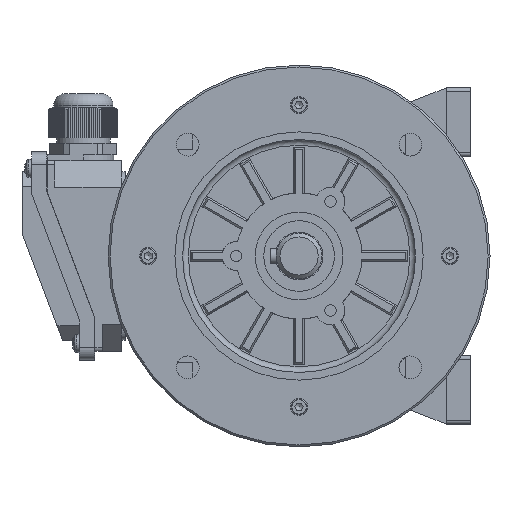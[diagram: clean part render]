
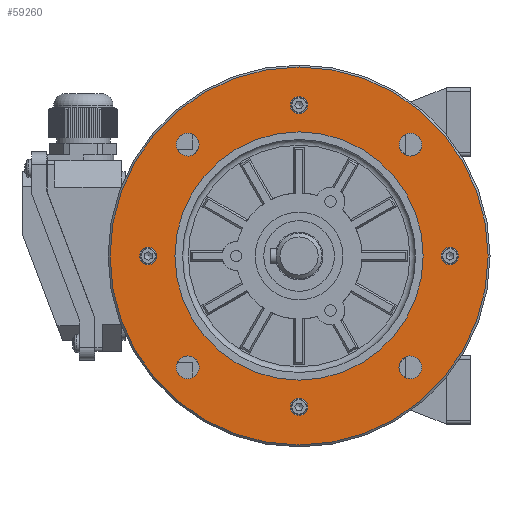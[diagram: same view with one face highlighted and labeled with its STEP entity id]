
A CAD part, left-side view. The second image highlights one B-rep face of the part: STEP entity #59260.
In plain terms, the highlighted planar face has unit normal (-1, 0, 0).
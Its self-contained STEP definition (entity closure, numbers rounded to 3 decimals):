
#1212=FACE_BOUND('',#12220,.T.);
#1213=FACE_BOUND('',#12221,.T.);
#1214=FACE_BOUND('',#12222,.T.);
#1215=FACE_BOUND('',#12223,.T.);
#1216=FACE_BOUND('',#12224,.T.);
#1217=FACE_BOUND('',#12225,.T.);
#1218=FACE_BOUND('',#12226,.T.);
#1219=FACE_BOUND('',#12227,.T.);
#1220=FACE_BOUND('',#12228,.T.);
#3243=CIRCLE('',#64102,65.);
#3253=CIRCLE('',#64117,6.);
#3257=CIRCLE('',#64123,6.);
#3261=CIRCLE('',#64129,6.);
#3264=CIRCLE('',#64134,6.);
#3265=CIRCLE('',#64136,99.);
#3266=CIRCLE('',#64137,4.5);
#3267=CIRCLE('',#64138,4.5);
#3268=CIRCLE('',#64139,4.5);
#3269=CIRCLE('',#64140,4.5);
#8722=FACE_OUTER_BOUND('',#12219,.T.);
#12219=EDGE_LOOP('',(#50501));
#12220=EDGE_LOOP('',(#50502));
#12221=EDGE_LOOP('',(#50503));
#12222=EDGE_LOOP('',(#50504));
#12223=EDGE_LOOP('',(#50505));
#12224=EDGE_LOOP('',(#50506));
#12225=EDGE_LOOP('',(#50507));
#12226=EDGE_LOOP('',(#50508));
#12227=EDGE_LOOP('',(#50509));
#12228=EDGE_LOOP('',(#50510));
#26417=VERTEX_POINT('',#111825);
#26428=VERTEX_POINT('',#111871);
#26431=VERTEX_POINT('',#111880);
#26434=VERTEX_POINT('',#111889);
#26435=VERTEX_POINT('',#111895);
#26436=VERTEX_POINT('',#111898);
#26437=VERTEX_POINT('',#111900);
#26438=VERTEX_POINT('',#111902);
#26439=VERTEX_POINT('',#111904);
#26440=VERTEX_POINT('',#111906);
#34503=EDGE_CURVE('',#26417,#26417,#3243,.T.);
#34515=EDGE_CURVE('',#26428,#26428,#3253,.T.);
#34519=EDGE_CURVE('',#26431,#26431,#3257,.T.);
#34523=EDGE_CURVE('',#26434,#26434,#3261,.T.);
#34526=EDGE_CURVE('',#26435,#26435,#3264,.T.);
#34527=EDGE_CURVE('',#26436,#26436,#3265,.T.);
#34528=EDGE_CURVE('',#26437,#26437,#3266,.T.);
#34529=EDGE_CURVE('',#26438,#26438,#3267,.T.);
#34530=EDGE_CURVE('',#26439,#26439,#3268,.T.);
#34531=EDGE_CURVE('',#26440,#26440,#3269,.T.);
#50501=ORIENTED_EDGE('',*,*,#34527,.F.);
#50502=ORIENTED_EDGE('',*,*,#34528,.T.);
#50503=ORIENTED_EDGE('',*,*,#34529,.T.);
#50504=ORIENTED_EDGE('',*,*,#34530,.T.);
#50505=ORIENTED_EDGE('',*,*,#34531,.T.);
#50506=ORIENTED_EDGE('',*,*,#34503,.T.);
#50507=ORIENTED_EDGE('',*,*,#34515,.T.);
#50508=ORIENTED_EDGE('',*,*,#34519,.T.);
#50509=ORIENTED_EDGE('',*,*,#34523,.T.);
#50510=ORIENTED_EDGE('',*,*,#34526,.T.);
#53071=PLANE('',#64135);
#59260=ADVANCED_FACE('',(#8722,#1212,#1213,#1214,#1215,#1216,#1217,#1218,
#1219,#1220),#53071,.T.);
#64102=AXIS2_PLACEMENT_3D('',#111826,#77900,#77901);
#64117=AXIS2_PLACEMENT_3D('',#111872,#77930,#77931);
#64123=AXIS2_PLACEMENT_3D('',#111881,#77942,#77943);
#64129=AXIS2_PLACEMENT_3D('',#111890,#77954,#77955);
#64134=AXIS2_PLACEMENT_3D('',#111896,#77964,#77965);
#64135=AXIS2_PLACEMENT_3D('',#111897,#77966,#77967);
#64136=AXIS2_PLACEMENT_3D('',#111899,#77968,#77969);
#64137=AXIS2_PLACEMENT_3D('',#111901,#77970,#77971);
#64138=AXIS2_PLACEMENT_3D('',#111903,#77972,#77973);
#64139=AXIS2_PLACEMENT_3D('',#111905,#77974,#77975);
#64140=AXIS2_PLACEMENT_3D('',#111907,#77976,#77977);
#77900=DIRECTION('center_axis',(1.,0.,0.));
#77901=DIRECTION('ref_axis',(0.,1.,0.));
#77930=DIRECTION('center_axis',(1.,0.,0.));
#77931=DIRECTION('ref_axis',(0.,0.,-1.));
#77942=DIRECTION('center_axis',(1.,0.,0.));
#77943=DIRECTION('ref_axis',(0.,1.,0.));
#77954=DIRECTION('center_axis',(1.,0.,0.));
#77955=DIRECTION('ref_axis',(0.,0.,
1.));
#77964=DIRECTION('center_axis',(1.,0.,0.));
#77965=DIRECTION('ref_axis',(0.,-1.,0.));
#77966=DIRECTION('center_axis',(-1.,0.,0.));
#77967=DIRECTION('ref_axis',(0.,0.,1.));
#77968=DIRECTION('center_axis',(1.,0.,0.));
#77969=DIRECTION('ref_axis',(0.,-1.,0.));
#77970=DIRECTION('center_axis',(1.,0.,0.));
#77971=DIRECTION('ref_axis',(0.,-1.,0.));
#77972=DIRECTION('center_axis',(1.,0.,0.));
#77973=DIRECTION('ref_axis',(0.,0.,
1.));
#77974=DIRECTION('center_axis',(1.,0.,0.));
#77975=DIRECTION('ref_axis',(0.,1.,0.));
#77976=DIRECTION('center_axis',(1.,0.,0.));
#77977=DIRECTION('ref_axis',(0.,0.,-1.));
#111825=CARTESIAN_POINT('',(-109.186,59.657,0.));
#111826=CARTESIAN_POINT('Origin',(-109.186,-5.343,0.));
#111871=CARTESIAN_POINT('',(-109.186,52.993,-52.336));
#111872=CARTESIAN_POINT('Origin',(-109.186,52.993,-58.336));
#111880=CARTESIAN_POINT('',(-109.186,46.993,58.336));
#111881=CARTESIAN_POINT('Origin',(-109.186,52.993,58.336));
#111889=CARTESIAN_POINT('',(-109.186,-63.679,52.336));
#111890=CARTESIAN_POINT('Origin',(-109.186,-63.679,58.336));
#111895=CARTESIAN_POINT('',(-109.186,-57.679,-58.336));
#111896=CARTESIAN_POINT('Origin',(-109.186,-63.679,-58.336));
#111897=CARTESIAN_POINT('Origin',(-109.186,75.157,0.));
#111898=CARTESIAN_POINT('',(-109.186,93.657,0.));
#111899=CARTESIAN_POINT('Origin',(-109.186,-5.343,0.));
#111900=CARTESIAN_POINT('',(-109.186,-0.843,-79.));
#111901=CARTESIAN_POINT('Origin',(-109.186,-5.343,-79.));
#111902=CARTESIAN_POINT('',(-109.186,-84.343,-4.5));
#111903=CARTESIAN_POINT('Origin',(-109.186,-84.343,0.));
#111904=CARTESIAN_POINT('',(-109.186,-9.843,79.));
#111905=CARTESIAN_POINT('Origin',(-109.186,-5.343,79.));
#111906=CARTESIAN_POINT('',(-109.186,73.657,4.5));
#111907=CARTESIAN_POINT('Origin',(-109.186,73.657,0.));
